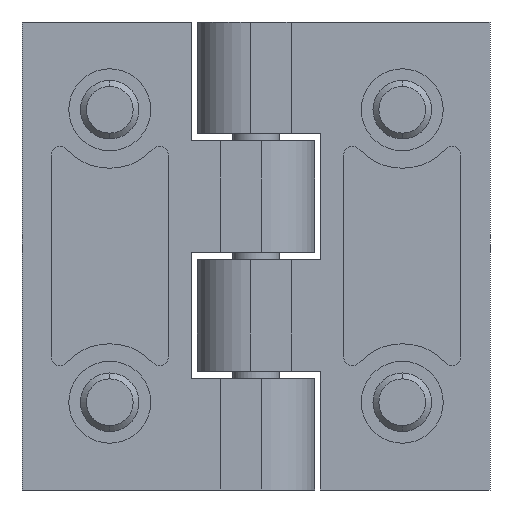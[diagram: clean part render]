
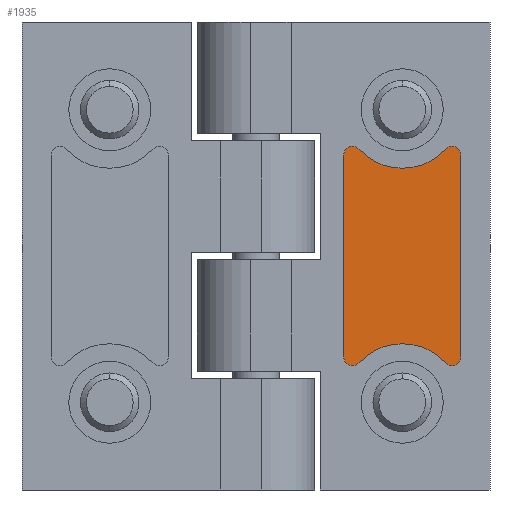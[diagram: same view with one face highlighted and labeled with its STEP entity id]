
A CAD part, front view. The second image highlights one B-rep face of the part: STEP entity #1935.
In plain terms, the highlighted planar face has unit normal (0, -1, 0).
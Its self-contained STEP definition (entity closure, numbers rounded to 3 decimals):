
#28 = VERTEX_POINT ( 'NONE', #1269 ) ;
#103 = VERTEX_POINT ( 'NONE', #1214 ) ;
#107 = DIRECTION ( 'NONE',  ( 0., 0., -1. ) ) ;
#177 = CARTESIAN_POINT ( 'NONE',  ( 17.5, -1.5, 0. ) ) ;
#278 = VERTEX_POINT ( 'NONE', #4392 ) ;
#350 = EDGE_CURVE ( 'NONE', #4601, #1100, #3654, .T. ) ;
#471 = ORIENTED_EDGE ( 'NONE', *, *, #4526, .T. ) ;
#488 = CARTESIAN_POINT ( 'NONE',  ( 8.25, -1.5, -9.377 ) ) ;
#508 = CIRCLE ( 'NONE', #2583, 5. ) ;
#529 = EDGE_CURVE ( 'NONE', #3656, #103, #508, .T. ) ;
#559 = CIRCLE ( 'NONE', #4474, 0.75 ) ;
#633 = CARTESIAN_POINT ( 'NONE',  ( 0., -1.5, 0. ) ) ;
#732 = ORIENTED_EDGE ( 'NONE', *, *, #3572, .F. ) ;
#743 = VERTEX_POINT ( 'NONE', #1989 ) ;
#776 = DIRECTION ( 'NONE',  ( 0., -1., 0. ) ) ;
#813 = DIRECTION ( 'NONE',  ( 0., -1., 0. ) ) ;
#821 = ORIENTED_EDGE ( 'NONE', *, *, #4077, .F. ) ;
#823 = CARTESIAN_POINT ( 'NONE',  ( 17.5, -1.5, 8.627 ) ) ;
#926 = AXIS2_PLACEMENT_3D ( 'NONE', #3124, #813, #3505 ) ;
#1097 = CIRCLE ( 'NONE', #4570, 0.75 ) ;
#1100 = VERTEX_POINT ( 'NONE', #1838 ) ;
#1173 = CARTESIAN_POINT ( 'NONE',  ( 16.196, -1.5, 9.132 ) ) ;
#1208 = EDGE_CURVE ( 'NONE', #1100, #3401, #3936, .T. ) ;
#1214 = CARTESIAN_POINT ( 'NONE',  ( 8.804, -1.5, -9.132 ) ) ;
#1261 = DIRECTION ( 'NONE',  ( 0., -1., 0. ) ) ;
#1269 = CARTESIAN_POINT ( 'NONE',  ( 8.804, -1.5, 9.132 ) ) ;
#1311 = ORIENTED_EDGE ( 'NONE', *, *, #4236, .T. ) ;
#1337 = CIRCLE ( 'NONE', #3611, 5. ) ;
#1362 = ORIENTED_EDGE ( 'NONE', *, *, #4491, .T. ) ;
#1387 = CARTESIAN_POINT ( 'NONE',  ( 8.25, -1.5, -8.627 ) ) ;
#1403 = CARTESIAN_POINT ( 'NONE',  ( 7.5, -1.5, 8.627 ) ) ;
#1477 = DIRECTION ( 'NONE',  ( 0., -1., 0. ) ) ;
#1548 = CARTESIAN_POINT ( 'NONE',  ( 16.75, -1.5, -8.627 ) ) ;
#1705 = EDGE_CURVE ( 'NONE', #28, #278, #2472, .T. ) ;
#1726 = FACE_OUTER_BOUND ( 'NONE', #3147, .T. ) ;
#1770 = DIRECTION ( 'NONE',  ( 0., 0., -1. ) ) ;
#1788 = DIRECTION ( 'NONE',  ( 0., -1., 0. ) ) ;
#1830 = VECTOR ( 'NONE', #4045, 1000. ) ;
#1838 = CARTESIAN_POINT ( 'NONE',  ( 7.5, -1.5, -8.627 ) ) ;
#1902 = CARTESIAN_POINT ( 'NONE',  ( 16.196, -1.5, -9.132 ) ) ;
#1935 = ADVANCED_FACE ( 'NONE', ( #1726 ), #3733, .T. ) ;
#1941 = DIRECTION ( 'NONE',  ( 0., 0., -1. ) ) ;
#1989 = CARTESIAN_POINT ( 'NONE',  ( 16.75, -1.5, -9.377 ) ) ;
#2174 = CARTESIAN_POINT ( 'NONE',  ( 8.25, -1.5, -8.627 ) ) ;
#2209 = DIRECTION ( 'NONE',  ( 0., 0., -1. ) ) ;
#2367 = EDGE_CURVE ( 'NONE', #743, #4818, #4413, .T. ) ;
#2427 = DIRECTION ( 'NONE',  ( 0., -1., 0. ) ) ;
#2472 = CIRCLE ( 'NONE', #4411, 5. ) ;
#2508 = AXIS2_PLACEMENT_3D ( 'NONE', #2174, #4897, #2560 ) ;
#2531 = ORIENTED_EDGE ( 'NONE', *, *, #350, .T. ) ;
#2560 = DIRECTION ( 'NONE',  ( 0., 0., -1. ) ) ;
#2583 = AXIS2_PLACEMENT_3D ( 'NONE', #3084, #776, #3477 ) ;
#2721 = CIRCLE ( 'NONE', #4209, 0.75 ) ;
#2972 = LINE ( 'NONE', #177, #1830 ) ;
#2981 = ORIENTED_EDGE ( 'NONE', *, *, #1208, .T. ) ;
#3084 = CARTESIAN_POINT ( 'NONE',  ( 12.5, -1.5, -12.5 ) ) ;
#3124 = CARTESIAN_POINT ( 'NONE',  ( 16.75, -1.5, -8.627 ) ) ;
#3129 = AXIS2_PLACEMENT_3D ( 'NONE', #1548, #4269, #1941 ) ;
#3147 = EDGE_LOOP ( 'NONE', ( #2531, #2981, #1362, #4047, #1311, #3441, #821, #471, #732, #3767, #4284 ) ) ;
#3162 = CIRCLE ( 'NONE', #926, 0.75 ) ;
#3236 = VERTEX_POINT ( 'NONE', #1173 ) ;
#3249 = CARTESIAN_POINT ( 'NONE',  ( 17.5, -1.5, -8.627 ) ) ;
#3401 = VERTEX_POINT ( 'NONE', #488 ) ;
#3441 = ORIENTED_EDGE ( 'NONE', *, *, #2367, .T. ) ;
#3477 = DIRECTION ( 'NONE',  ( 0., 0., -1. ) ) ;
#3505 = DIRECTION ( 'NONE',  ( 0., 0., -1. ) ) ;
#3563 = CARTESIAN_POINT ( 'NONE',  ( 12.5, -1.5, 12.5 ) ) ;
#3572 = EDGE_CURVE ( 'NONE', #278, #3236, #1337, .T. ) ;
#3611 = AXIS2_PLACEMENT_3D ( 'NONE', #3794, #1477, #4199 ) ;
#3654 = LINE ( 'NONE', #4549, #3768 ) ;
#3656 = VERTEX_POINT ( 'NONE', #1902 ) ;
#3733 = PLANE ( 'NONE',  #4123 ) ;
#3767 = ORIENTED_EDGE ( 'NONE', *, *, #1705, .F. ) ;
#3768 = VECTOR ( 'NONE', #2209, 1000. ) ;
#3794 = CARTESIAN_POINT ( 'NONE',  ( 12.5, -1.5, 12.5 ) ) ;
#3815 = VERTEX_POINT ( 'NONE', #823 ) ;
#3936 = CIRCLE ( 'NONE', #2508, 0.75 ) ;
#3975 = DIRECTION ( 'NONE',  ( 0., 0., -1. ) ) ;
#4045 = DIRECTION ( 'NONE',  ( 0., 0., -1. ) ) ;
#4047 = ORIENTED_EDGE ( 'NONE', *, *, #529, .F. ) ;
#4077 = EDGE_CURVE ( 'NONE', #3815, #4818, #2972, .T. ) ;
#4112 = DIRECTION ( 'NONE',  ( 0., -1., 0. ) ) ;
#4123 = AXIS2_PLACEMENT_3D ( 'NONE', #633, #4127, #4143 ) ;
#4127 = DIRECTION ( 'NONE',  ( 0., -1., 0. ) ) ;
#4129 = CARTESIAN_POINT ( 'NONE',  ( 16.75, -1.5, 8.627 ) ) ;
#4143 = DIRECTION ( 'NONE',  ( 0., 0., -1. ) ) ;
#4199 = DIRECTION ( 'NONE',  ( 0., 0., -1. ) ) ;
#4209 = AXIS2_PLACEMENT_3D ( 'NONE', #1387, #4112, #1770 ) ;
#4236 = EDGE_CURVE ( 'NONE', #3656, #743, #3162, .T. ) ;
#4269 = DIRECTION ( 'NONE',  ( 0., -1., 0. ) ) ;
#4284 = ORIENTED_EDGE ( 'NONE', *, *, #4317, .T. ) ;
#4317 = EDGE_CURVE ( 'NONE', #28, #4601, #1097, .T. ) ;
#4392 = CARTESIAN_POINT ( 'NONE',  ( 12.5, -1.5, 7.5 ) ) ;
#4411 = AXIS2_PLACEMENT_3D ( 'NONE', #3563, #1261, #3975 ) ;
#4413 = CIRCLE ( 'NONE', #3129, 0.75 ) ;
#4474 = AXIS2_PLACEMENT_3D ( 'NONE', #4129, #1788, #4517 ) ;
#4491 = EDGE_CURVE ( 'NONE', #3401, #103, #2721, .T. ) ;
#4517 = DIRECTION ( 'NONE',  ( 0., 0., -1. ) ) ;
#4526 = EDGE_CURVE ( 'NONE', #3815, #3236, #559, .T. ) ;
#4549 = CARTESIAN_POINT ( 'NONE',  ( 7.5, -1.5, 0. ) ) ;
#4570 = AXIS2_PLACEMENT_3D ( 'NONE', #4765, #2427, #107 ) ;
#4601 = VERTEX_POINT ( 'NONE', #1403 ) ;
#4765 = CARTESIAN_POINT ( 'NONE',  ( 8.25, -1.5, 8.627 ) ) ;
#4818 = VERTEX_POINT ( 'NONE', #3249 ) ;
#4897 = DIRECTION ( 'NONE',  ( 0., -1., 0. ) ) ;
